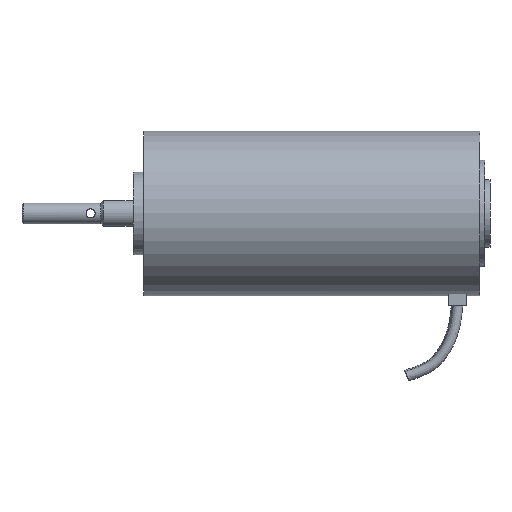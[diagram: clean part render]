
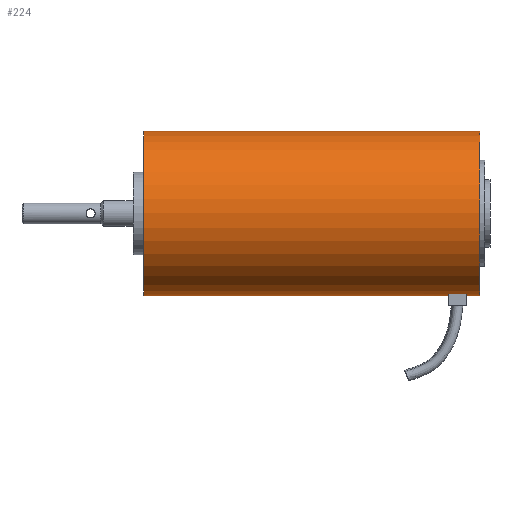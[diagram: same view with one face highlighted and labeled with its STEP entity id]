
A CAD part, top view. The second image highlights one B-rep face of the part: STEP entity #224.
In plain terms, the highlighted cylindrical face has radius 31.847 mm (diameter 63.694 mm), a partial arc.
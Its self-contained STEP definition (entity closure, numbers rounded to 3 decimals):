
#224=ADVANCED_FACE('',(#439),#440,.T.);
#439=FACE_OUTER_BOUND('',#741,.T.);
#440=CYLINDRICAL_SURFACE('',#742,31.847);
#741=EDGE_LOOP('',(#1696,#1697,#1698,#1699,#1700,#1701,#1702,#1703));
#742=AXIS2_PLACEMENT_3D('',#1704,#1705,#1706);
#1696=ORIENTED_EDGE('',*,*,#2222,.T.);
#1697=ORIENTED_EDGE('',*,*,#2223,.T.);
#1698=ORIENTED_EDGE('',*,*,#2224,.T.);
#1699=ORIENTED_EDGE('',*,*,#2225,.F.);
#1700=ORIENTED_EDGE('',*,*,#2197,.F.);
#1701=ORIENTED_EDGE('',*,*,#2226,.F.);
#1702=ORIENTED_EDGE('',*,*,#2227,.T.);
#1703=ORIENTED_EDGE('',*,*,#2228,.T.);
#1704=CARTESIAN_POINT('',(70.038,24.24,94.278));
#1705=DIRECTION('',(1.0,0.,0.));
#1706=DIRECTION('',(0.,1.0,0.));
#2197=EDGE_CURVE('',#2442,#2443,#2444,.T.);
#2222=EDGE_CURVE('',#2485,#2486,#2487,.T.);
#2223=EDGE_CURVE('',#2486,#2488,#2489,.T.);
#2224=EDGE_CURVE('',#2488,#2490,#2491,.T.);
#2225=EDGE_CURVE('',#2443,#2490,#2492,.T.);
#2226=EDGE_CURVE('',#2493,#2442,#2494,.T.);
#2227=EDGE_CURVE('',#2493,#2495,#2496,.T.);
#2228=EDGE_CURVE('',#2495,#2485,#2497,.T.);
#2442=VERTEX_POINT('',#2805);
#2443=VERTEX_POINT('',#2806);
#2444=LINE('',#2807,#2808);
#2485=VERTEX_POINT('',#2860);
#2486=VERTEX_POINT('',#2861);
#2487=LINE('',#2862,#2863);
#2488=VERTEX_POINT('',#2864);
#2489=CIRCLE('',#2865,31.847);
#2490=VERTEX_POINT('',#2866);
#2491=LINE('',#2867,#2868);
#2492=CIRCLE('',#2869,31.847);
#2493=VERTEX_POINT('',#2870);
#2494=CIRCLE('',#2871,31.847);
#2495=VERTEX_POINT('',#2872);
#2496=LINE('',#2873,#2874);
#2497=CIRCLE('',#2875,31.847);
#2805=CARTESIAN_POINT('',(65.038,-6.828,101.278));
#2806=CARTESIAN_POINT('',(58.038,-6.828,101.278));
#2807=CARTESIAN_POINT('',(61.538,-6.828,101.278));
#2808=VECTOR('',#3400,1.0);
#2860=CARTESIAN_POINT('',(70.038,56.087,94.278));
#2861=CARTESIAN_POINT('',(-59.962,56.087,94.278));
#2862=CARTESIAN_POINT('',(70.038,56.087,94.278));
#2863=VECTOR('',#3433,1.0);
#2864=CARTESIAN_POINT('',(-59.962,-7.607,94.278));
#2865=AXIS2_PLACEMENT_3D('',#3434,#3435,#3436);
#2866=CARTESIAN_POINT('',(58.038,-7.607,94.278));
#2867=CARTESIAN_POINT('',(70.038,-7.607,94.278));
#2868=VECTOR('',#3437,1.0);
#2869=AXIS2_PLACEMENT_3D('',#3438,#3439,#3440);
#2870=CARTESIAN_POINT('',(65.038,-7.607,94.278));
#2871=AXIS2_PLACEMENT_3D('',#3441,#3442,#3443);
#2872=CARTESIAN_POINT('',(70.038,-7.607,94.278));
#2873=CARTESIAN_POINT('',(70.038,-7.607,94.278));
#2874=VECTOR('',#3444,1.0);
#2875=AXIS2_PLACEMENT_3D('',#3445,#3446,#3447);
#3400=DIRECTION('',(-1.0,0.,0.));
#3433=DIRECTION('',(-1.0,0.,0.));
#3434=CARTESIAN_POINT('',(-59.962,24.24,94.278));
#3435=DIRECTION('',(1.0,0.,0.));
#3436=DIRECTION('',(0.,1.0,0.));
#3437=DIRECTION('',(1.0,0.,0.));
#3438=CARTESIAN_POINT('',(58.038,24.24,94.278));
#3439=DIRECTION('',(1.0,0.,0.));
#3440=DIRECTION('',(0.,1.0,0.));
#3441=CARTESIAN_POINT('',(65.038,24.24,94.278));
#3442=DIRECTION('',(-1.0,0.,0.));
#3443=DIRECTION('',(0.,1.0,0.));
#3444=DIRECTION('',(1.0,0.,0.));
#3445=CARTESIAN_POINT('',(70.038,24.24,94.278));
#3446=DIRECTION('',(-1.0,0.,0.));
#3447=DIRECTION('',(0.,1.0,0.));
